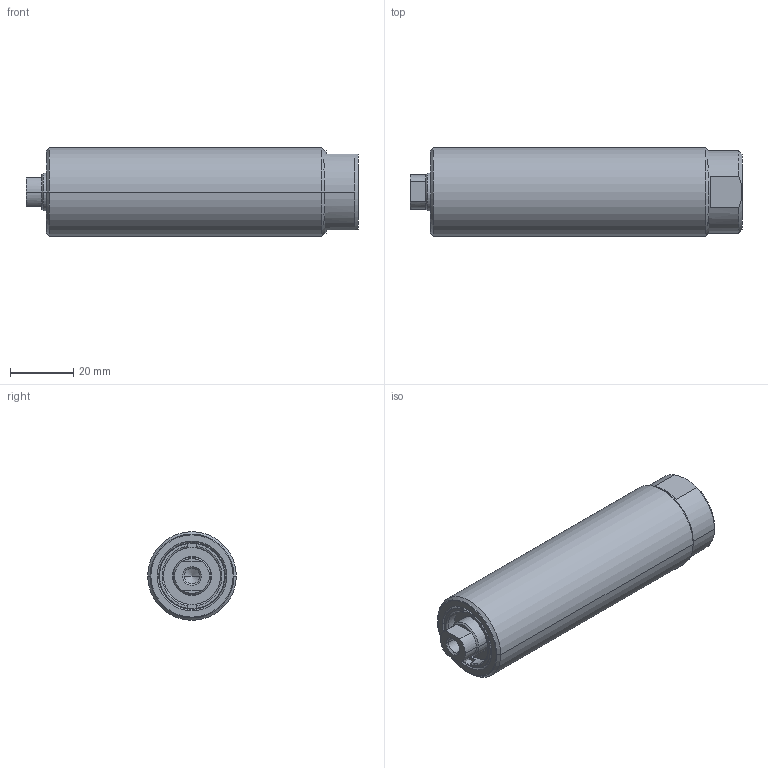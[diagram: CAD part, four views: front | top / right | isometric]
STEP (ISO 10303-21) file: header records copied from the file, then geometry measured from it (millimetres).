
FILE_DESCRIPTION((''),'2;1');
FILE_NAME('CST-10382_ASM','2010-11-23T',('chad.steele'),(''),'PRO/ENGINEER BY PARAMETRIC TECHNOLOGY CORPORATION, 2010040','PRO/ENGINEER BY PARAMETRIC TECHNOLOGY CORPORATION, 2010040','');
FILE_SCHEMA(('CONFIG_CONTROL_DESIGN'));
Length unit declared in the file: millimetre
Products named in the file (4): DC6054030; DC6037044; DC4662040; CST-10382_ASM
Assembly tree (3 placements, depth 2):
  CST-10382_ASM
    DC6054030
    DC6037044
    DC4662040
Bounding box: 104.9 x 28 x 28 mm (x, y, z)
Volume: 44869.5 mm3; surface area: 30792.9 mm2
Topology: 3 solids, 8 shells, 122 faces, 289 edges, 178 vertices
Faces by surface type: plane 42, cylinder 40, cone 28, torus 12
Entity records: 3737 total; most frequent: CARTESIAN_POINT 724, DIRECTION 679, ORIENTED_EDGE 550, EDGE_CURVE 285, AXIS2_PLACEMENT_3D 273, VERTEX_POINT 178, CIRCLE 138, EDGE_LOOP 135
